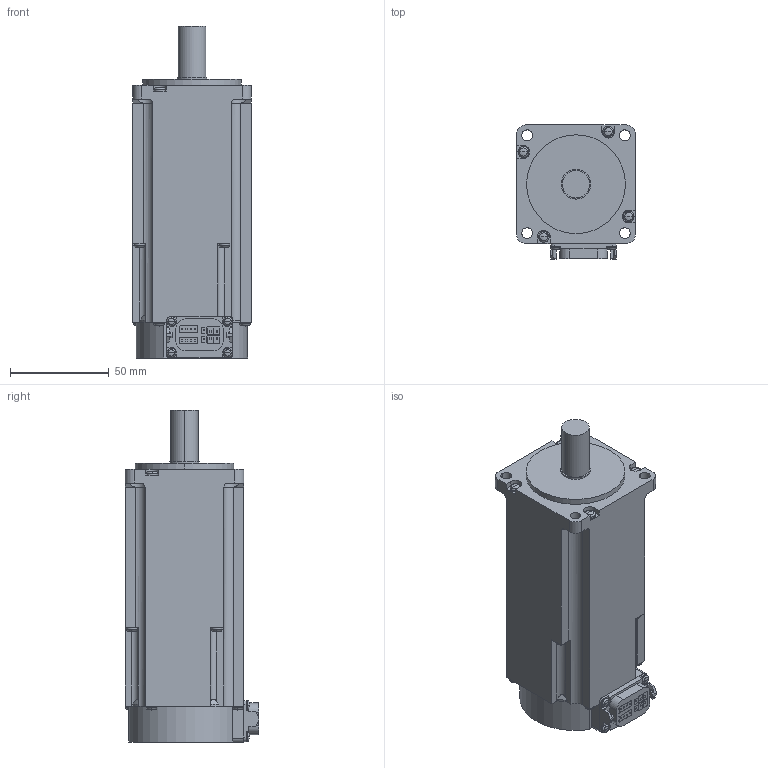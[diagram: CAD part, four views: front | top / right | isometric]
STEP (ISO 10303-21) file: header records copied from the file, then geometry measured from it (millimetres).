
FILE_DESCRIPTION((''),'2;1');
FILE_NAME('HK-KT63WB_-_ASM','2019-01-16T',('XE90682'),(''),'CREO PARAMETRIC BY PTC INC, 2016380','CREO PARAMETRIC BY PTC INC, 2016380','');
FILE_SCHEMA(('CONFIG_CONTROL_DESIGN'));
Length unit declared in the file: millimetre
Products named in the file (1): HK-KT63WB_-_ASM
Bounding box: 60 x 67.65 x 168.1 mm (x, y, z)
Volume: 440967.9 mm3; surface area: 41524.1 mm2
Topology: 1 solids, 1 shells, 401 faces, 1042 edges, 654 vertices
Faces by surface type: plane 221, cylinder 113, torus 32, sphere 32, cone 3
Entity records: 12250 total; most frequent: CARTESIAN_POINT 2290, DIRECTION 2120, ORIENTED_EDGE 2020, EDGE_CURVE 1010, AXIS2_PLACEMENT_3D 726, VECTOR 668, LINE 668, VERTEX_POINT 654
